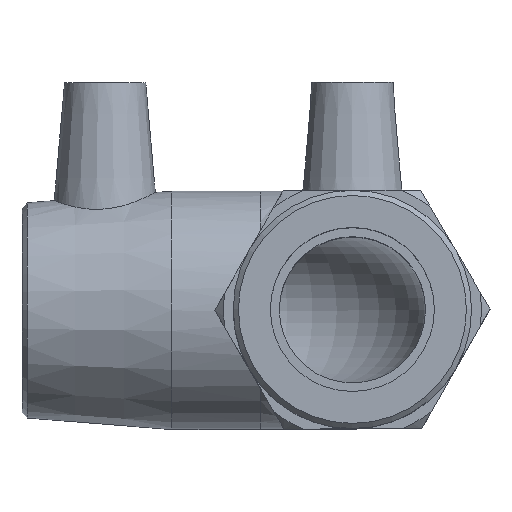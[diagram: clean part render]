
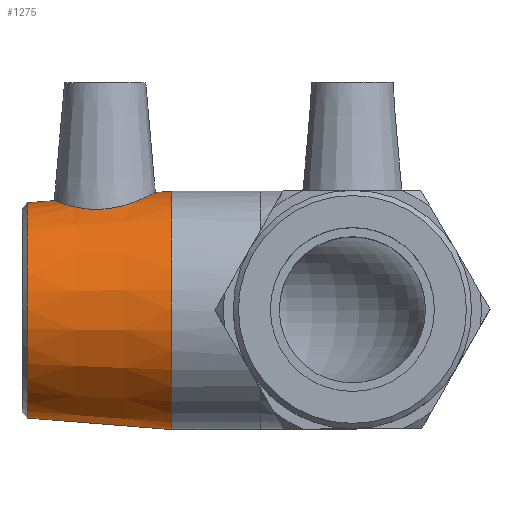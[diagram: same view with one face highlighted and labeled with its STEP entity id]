
A CAD part, top view. The second image highlights one B-rep face of the part: STEP entity #1275.
In plain terms, the highlighted conical face has half-angle 4.546 degrees and reference radius 20.9 mm.
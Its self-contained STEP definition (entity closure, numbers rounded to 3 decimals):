
#17=B_SPLINE_CURVE_WITH_KNOTS('',3,(#2183,#2184,#2185,#2186,#2187,#2188,
#2189,#2190,#2191,#2192,#2193,#2194,#2195,#2196,#2197,#2198,#2199,#2200,
#2201,#2202,#2203,#2204,#2205,#2206,#2207,#2208,#2209,#2210,#2211,#2212,
#2213,#2214,#2215,#2216),.UNSPECIFIED.,.T.,.F.,(4,2,2,2,2,2,2,2,2,2,2,2,
2,2,2,2,4),(0.,0.349,0.699,1.051,1.403,
1.754,2.106,2.456,2.805,3.184,
3.562,3.93,4.298,4.666,5.034,
5.413,5.791),.UNSPECIFIED.);
#24=FACE_BOUND('',#250,.T.);
#25=FACE_BOUND('',#251,.T.);
#123=CONICAL_SURFACE('',#1411,20.9,4.546);
#168=FACE_OUTER_BOUND('',#249,.T.);
#249=EDGE_LOOP('',(#1043));
#250=EDGE_LOOP('',(#1044));
#251=EDGE_LOOP('',(#1045));
#377=CIRCLE('',#1410,19.876);
#378=CIRCLE('',#1412,22.);
#604=VERTEX_POINT('',#2177);
#605=VERTEX_POINT('',#2180);
#606=VERTEX_POINT('',#2182);
#765=EDGE_CURVE('',#604,#604,#377,.T.);
#766=EDGE_CURVE('',#605,#605,#378,.T.);
#767=EDGE_CURVE('',#606,#606,#17,.T.);
#1043=ORIENTED_EDGE('',*,*,#766,.F.);
#1044=ORIENTED_EDGE('',*,*,#767,.T.);
#1045=ORIENTED_EDGE('',*,*,#765,.F.);
#1275=ADVANCED_FACE('',(#168,#24,#25),#123,.T.);
#1410=AXIS2_PLACEMENT_3D('',#2178,#1719,#1720);
#1411=AXIS2_PLACEMENT_3D('',#2179,#1721,#1722);
#1412=AXIS2_PLACEMENT_3D('',#2181,#1723,#1724);
#1719=DIRECTION('center_axis',(-1.,0.,0.));
#1720=DIRECTION('ref_axis',(0.,-1.,0.));
#1721=DIRECTION('center_axis',(1.,0.,0.));
#1722=DIRECTION('ref_axis',(0.,1.,0.));
#1723=DIRECTION('center_axis',(1.,0.,0.));
#1724=DIRECTION('ref_axis',(0.,0.,-1.));
#2177=CARTESIAN_POINT('',(-60.043,19.876,0.));
#2178=CARTESIAN_POINT('Origin',(-60.043,0.,0.));
#2179=CARTESIAN_POINT('Origin',(-47.167,0.,
0.));
#2180=CARTESIAN_POINT('',(-33.333,22.,0.));
#2181=CARTESIAN_POINT('Origin',(-33.333,0.,
0.));
#2182=CARTESIAN_POINT('',(-46.053,18.7,9.53));
#2183=CARTESIAN_POINT('Ctrl Pts',(-46.053,18.7,9.53));
#2184=CARTESIAN_POINT('Ctrl Pts',(-47.214,18.618,9.488));
#2185=CARTESIAN_POINT('Ctrl Pts',(-48.439,18.657,9.207));
#2186=CARTESIAN_POINT('Ctrl Pts',(-50.662,18.936,8.183));
#2187=CARTESIAN_POINT('Ctrl Pts',(-51.662,19.167,7.441));
#2188=CARTESIAN_POINT('Ctrl Pts',(-53.235,19.605,5.768));
#2189=CARTESIAN_POINT('Ctrl Pts',(-53.918,19.843,4.718));
#2190=CARTESIAN_POINT('Ctrl Pts',(-54.826,20.179,2.42));
#2191=CARTESIAN_POINT('Ctrl Pts',(-55.051,20.273,1.173));
#2192=CARTESIAN_POINT('Ctrl Pts',(-55.051,20.273,-1.173));
#2193=CARTESIAN_POINT('Ctrl Pts',(-54.826,20.179,-2.42));
#2194=CARTESIAN_POINT('Ctrl Pts',(-53.918,19.843,-4.718));
#2195=CARTESIAN_POINT('Ctrl Pts',(-53.235,19.605,-5.768));
#2196=CARTESIAN_POINT('Ctrl Pts',(-51.662,19.167,-7.441));
#2197=CARTESIAN_POINT('Ctrl Pts',(-50.662,18.936,-8.183));
#2198=CARTESIAN_POINT('Ctrl Pts',(-48.439,18.657,-9.207));
#2199=CARTESIAN_POINT('Ctrl Pts',(-47.214,18.618,-9.488));
#2200=CARTESIAN_POINT('Ctrl Pts',(-44.795,18.789,-9.575));
#2201=CARTESIAN_POINT('Ctrl Pts',(-43.479,19.029,-9.348));
#2202=CARTESIAN_POINT('Ctrl Pts',(-41.086,19.682,-8.378));
#2203=CARTESIAN_POINT('Ctrl Pts',(-40.007,20.087,-7.636));
#2204=CARTESIAN_POINT('Ctrl Pts',(-38.327,20.79,-5.94));
#2205=CARTESIAN_POINT('Ctrl Pts',(-37.6,21.139,-4.877));
#2206=CARTESIAN_POINT('Ctrl Pts',(-36.626,21.625,-2.521));
#2207=CARTESIAN_POINT('Ctrl Pts',(-36.379,21.758,-1.227));
#2208=CARTESIAN_POINT('Ctrl Pts',(-36.379,21.758,1.227));
#2209=CARTESIAN_POINT('Ctrl Pts',(-36.626,21.625,2.521));
#2210=CARTESIAN_POINT('Ctrl Pts',(-37.6,21.139,4.877));
#2211=CARTESIAN_POINT('Ctrl Pts',(-38.327,20.79,5.94));
#2212=CARTESIAN_POINT('Ctrl Pts',(-40.007,20.087,7.636));
#2213=CARTESIAN_POINT('Ctrl Pts',(-41.086,19.682,8.378));
#2214=CARTESIAN_POINT('Ctrl Pts',(-43.479,19.029,9.348));
#2215=CARTESIAN_POINT('Ctrl Pts',(-44.795,18.789,9.575));
#2216=CARTESIAN_POINT('Ctrl Pts',(-46.053,18.7,9.53));
